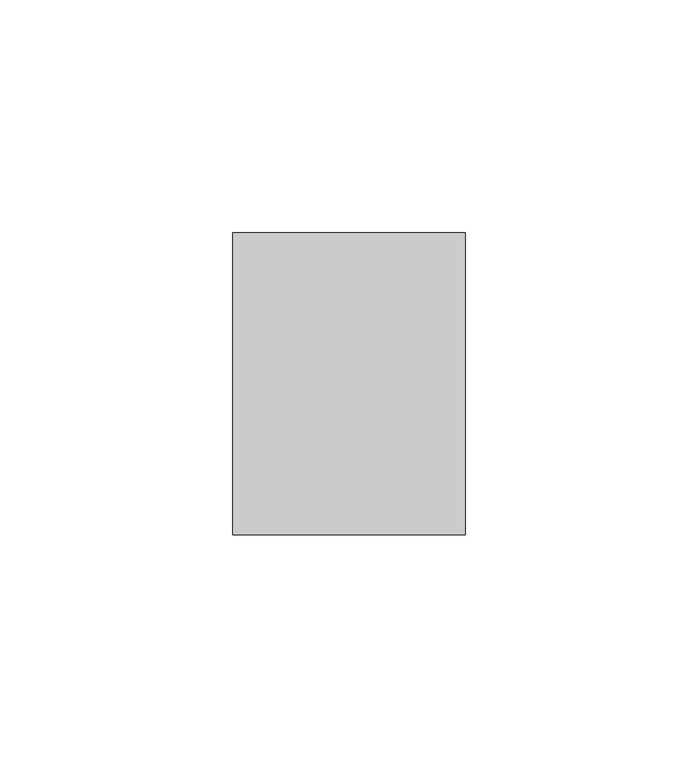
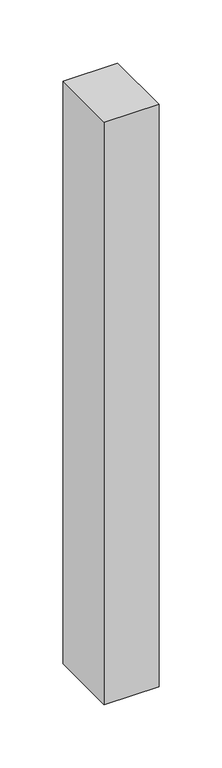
"""IFC4 building model written with IfcOpenShell, lengths in millimetres: member geometry, Прямоугольный импост : 50 мм x 65 мм."""

from ifc_helpers import new_model, si_unit, frame, origin, place, context, project, spatial, polyline, outline, extrude, source, transform, mapped, element, save


def member_481cded8(model_context):
    return source(origin(), model_context, "Body", "SweptSolid", [
        extrude(outline(polyline([(25.0, 32.5), (25.0, -32.5), (-25.0, -32.5), (-25.0, 32.5), (25.0, 32.5)])), frame((0.0, 0.0, -562.6517204), z_axis=(0.0, 0.0, 1.0), x_axis=(1.0, 0.0, 0.0)), (0.0, 0.0, 1.0), 562.6517204),
    ])


if __name__ == "__main__":
    model = new_model("IFC4")
    model_context = context("Model", 3, world=origin())
    ifc_project = project(units=[si_unit("LENGTHUNIT", "METRE", prefix="MILLI")], contexts=[model_context])
    site = spatial("IfcSite", under=ifc_project)
    building = spatial("IfcBuilding", under=site)
    placement = place(None, origin())
    member_shape = member_481cded8(model_context)
    element("IfcMember", 1, ObjectType="Прямоугольный импост : 50 мм x 65 мм", at=placement, inside=building, context=model_context, shape_type="MappedRepresentation", body=[
        mapped(member_shape, transform((0.0, 0.0, 0.0), x_axis=(1.0, 0.0, 0.0), y_axis=(0.0, 1.0, 0.0), z_axis=(0.0, 0.0, 1.0))),
    ])
    save(model, "model.ifc")
